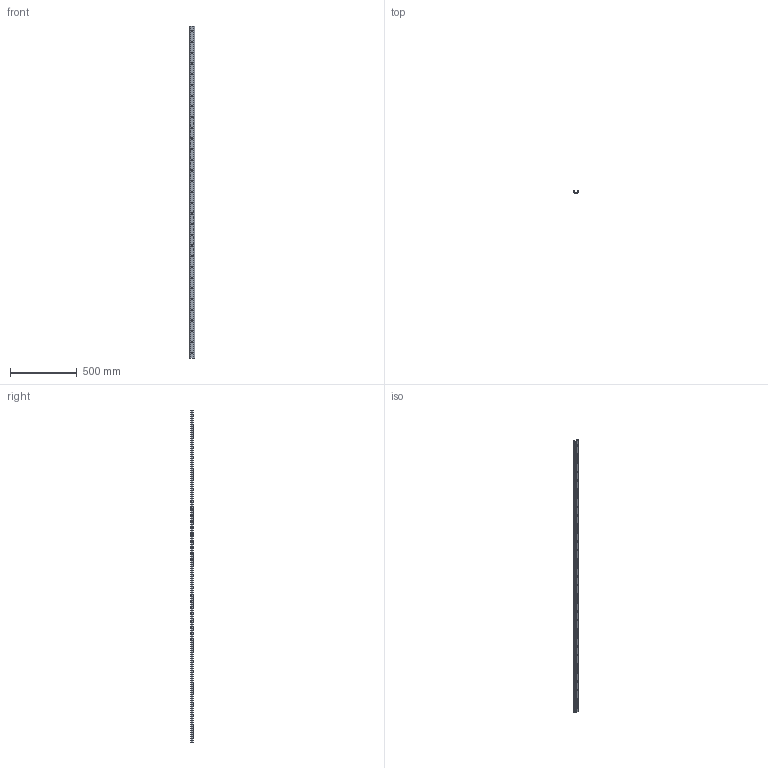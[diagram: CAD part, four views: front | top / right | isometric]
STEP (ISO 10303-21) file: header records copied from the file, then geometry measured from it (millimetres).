
FILE_DESCRIPTION(('STEP AP214'),'1');
FILE_NAME('rail_tex40-2480.stp','2019-03-08T08:33:39',('TraceParts'),('TraceParts S.A.'),'Spatial InterOp 3D',' ',' ');
FILE_SCHEMA(('automotive_design'));
Length unit declared in the file: millimetre
Products named in the file (1): rail_tex40-2480
Bounding box: 39.53 x 21 x 2480 mm (x, y, z)
Volume: 484881.7 mm3; surface area: 341576.8 mm2
Topology: 1 solids, 1 shells, 544 faces, 1410 edges, 940 vertices
Faces by surface type: plane 382, bspline 88, cylinder 74
Entity records: 34423 total; most frequent: CARTESIAN_POINT 17031, ORIENTED_EDGE 2820, DIRECTION 2296, EDGE_CURVE 1410, LINE 1086, VECTOR 1086, VERTEX_POINT 940, EDGE_LOOP 678
